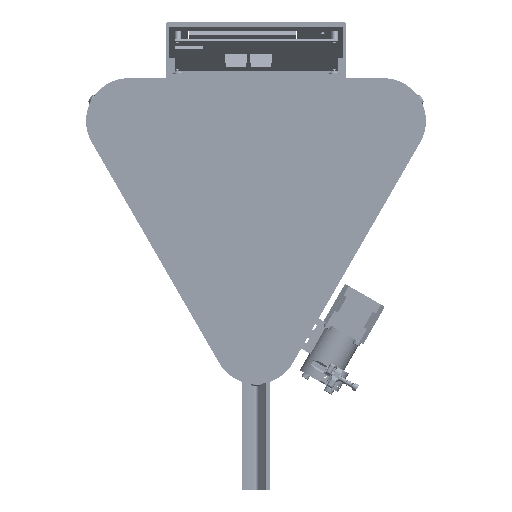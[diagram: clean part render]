
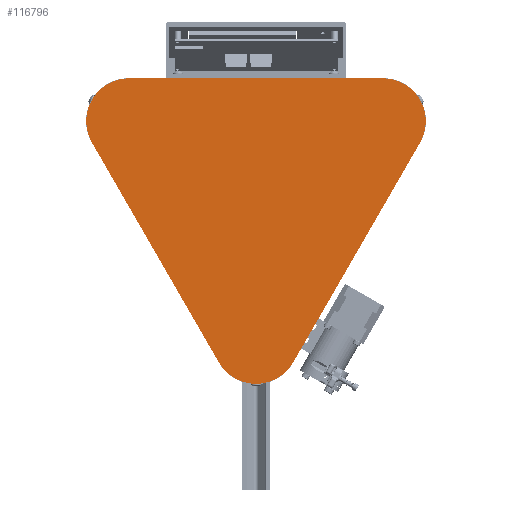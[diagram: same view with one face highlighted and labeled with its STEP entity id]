
A CAD part, front view. The second image highlights one B-rep face of the part: STEP entity #116796.
In plain terms, the highlighted planar face has unit normal (0, -1, 0) as drawn and (0, 0, 1) by its records, which use the part's own axes.
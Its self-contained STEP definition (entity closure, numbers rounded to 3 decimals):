
#35594 = CARTESIAN_POINT ( 'NONE',  ( -156.383, 281.448, 4. ) ) ;
#35598 = CARTESIAN_POINT ( 'NONE',  ( -151.091, 261.698, 4. ) ) ;
#35603 = CARTESIAN_POINT ( 'NONE',  ( 116.883, 320.948, 4. ) ) ;
#35604 = CARTESIAN_POINT ( 'NONE',  ( 34.208, 59.25, 4. ) ) ;
#35605 = CARTESIAN_POINT ( 'NONE',  ( 151.091, 261.698, 4. ) ) ;
#35606 = CARTESIAN_POINT ( 'NONE',  ( -116.883, 320.948, 4. ) ) ;
#35607 = CARTESIAN_POINT ( 'NONE',  ( -34.208, 59.25, 4. ) ) ;
#72613 = CIRCLE ( 'NONE', #72651, 39.5 ) ;
#72651 = AXIS2_PLACEMENT_3D ( 'NONE', #78207, #78209, #78211 ) ;
#72667 = VECTOR ( 'NONE', #78244, 1000. ) ;
#72674 = VECTOR ( 'NONE', #78258, 1000. ) ;
#72686 = VECTOR ( 'NONE', #78285, 1000. ) ;
#72696 = CIRCLE ( 'NONE', #72702, 39.5 ) ;
#72699 = CIRCLE ( 'NONE', #72708, 39.5 ) ;
#72702 = AXIS2_PLACEMENT_3D ( 'NONE', #78305, #78307, #78309 ) ;
#72705 = CIRCLE ( 'NONE', #72715, 39.5 ) ;
#72708 = AXIS2_PLACEMENT_3D ( 'NONE', #78313, #78315, #78317 ) ;
#72715 = AXIS2_PLACEMENT_3D ( 'NONE', #78321, #78323, #78325 ) ;
#78207 = CARTESIAN_POINT ( 'NONE',  ( -116.883, 281.448, 4. ) ) ;
#78209 = DIRECTION ( 'NONE',  ( 0., 0., 1. ) ) ;
#78211 = DIRECTION ( 'NONE',  ( 1., 0., 0. ) ) ;
#78239 = LINE ( 'NONE', #78242, #72667 ) ;
#78242 = CARTESIAN_POINT ( 'NONE',  ( 185.299, 320.948, 4. ) ) ;
#78244 = DIRECTION ( 'NONE',  ( 0.5, 0.866, 0. ) ) ;
#78253 = LINE ( 'NONE', #78256, #72674 ) ;
#78256 = CARTESIAN_POINT ( 'NONE',  ( 185.299, 320.948, 4. ) ) ;
#78258 = DIRECTION ( 'NONE',  ( -1., 0., 0. ) ) ;
#78280 = LINE ( 'NONE', #78283, #72686 ) ;
#78283 = CARTESIAN_POINT ( 'NONE',  ( -185.299, 320.948, 4. ) ) ;
#78285 = DIRECTION ( 'NONE',  ( 0.5, -0.866, 0. ) ) ;
#78305 = CARTESIAN_POINT ( 'NONE',  ( 116.883, 281.448, 4. ) ) ;
#78307 = DIRECTION ( 'NONE',  ( 0., 0., 1. ) ) ;
#78309 = DIRECTION ( 'NONE',  ( 1., 0., 0. ) ) ;
#78313 = CARTESIAN_POINT ( 'NONE',  ( -116.883, 281.448, 4. ) ) ;
#78315 = DIRECTION ( 'NONE',  ( 0., 0., 1. ) ) ;
#78317 = DIRECTION ( 'NONE',  ( 1., 0., 0. ) ) ;
#78321 = CARTESIAN_POINT ( 'NONE',  ( 0., 79., 4. ) ) ;
#78323 = DIRECTION ( 'NONE',  ( 0., 0., 1. ) ) ;
#78325 = DIRECTION ( 'NONE',  ( 1., 0., 0. ) ) ;
#83322 = VERTEX_POINT ( 'NONE', #35594 ) ;
#83327 = VERTEX_POINT ( 'NONE', #35598 ) ;
#83333 = VERTEX_POINT ( 'NONE', #35603 ) ;
#83335 = VERTEX_POINT ( 'NONE', #35604 ) ;
#83337 = VERTEX_POINT ( 'NONE', #35605 ) ;
#83339 = VERTEX_POINT ( 'NONE', #35606 ) ;
#83341 = VERTEX_POINT ( 'NONE', #35607 ) ;
#85918 = EDGE_LOOP ( 'NONE', ( #114901, #114902, #114903, #114904, #114905, #114906, #114907 ) ) ;
#90901 = EDGE_CURVE ( 'NONE', #83322, #83327, #72613, .T. ) ;
#90906 = EDGE_CURVE ( 'NONE', #83335, #83337, #78239, .T. ) ;
#90908 = EDGE_CURVE ( 'NONE', #83333, #83339, #78253, .T. ) ;
#90912 = EDGE_CURVE ( 'NONE', #83327, #83341, #78280, .T. ) ;
#90915 = EDGE_CURVE ( 'NONE', #83337, #83333, #72696, .T. ) ;
#90916 = EDGE_CURVE ( 'NONE', #83339, #83322, #72699, .T. ) ;
#90917 = EDGE_CURVE ( 'NONE', #83341, #83335, #72705, .T. ) ;
#96049 = PLANE ( 'NONE',  #96475 ) ;
#96051 = CARTESIAN_POINT ( 'NONE',  ( 0., 0., 4. ) ) ;
#96055 = FACE_OUTER_BOUND ( 'NONE', #85918, .T. ) ;
#96057 = DIRECTION ( 'NONE',  ( 0., 0., 1. ) ) ;
#96058 = DIRECTION ( 'NONE',  ( 1., 0., 0. ) ) ;
#96475 = AXIS2_PLACEMENT_3D ( 'NONE', #96051, #96057, #96058 ) ;
#114901 = ORIENTED_EDGE ( 'NONE', *, *, #90906, .T. ) ;
#114902 = ORIENTED_EDGE ( 'NONE', *, *, #90915, .T. ) ;
#114903 = ORIENTED_EDGE ( 'NONE', *, *, #90908, .T. ) ;
#114904 = ORIENTED_EDGE ( 'NONE', *, *, #90916, .T. ) ;
#114905 = ORIENTED_EDGE ( 'NONE', *, *, #90901, .T. ) ;
#114906 = ORIENTED_EDGE ( 'NONE', *, *, #90912, .T. ) ;
#114907 = ORIENTED_EDGE ( 'NONE', *, *, #90917, .T. ) ;
#116796 = ADVANCED_FACE ( 'NONE', ( #96055 ), #96049, .T. ) ;
